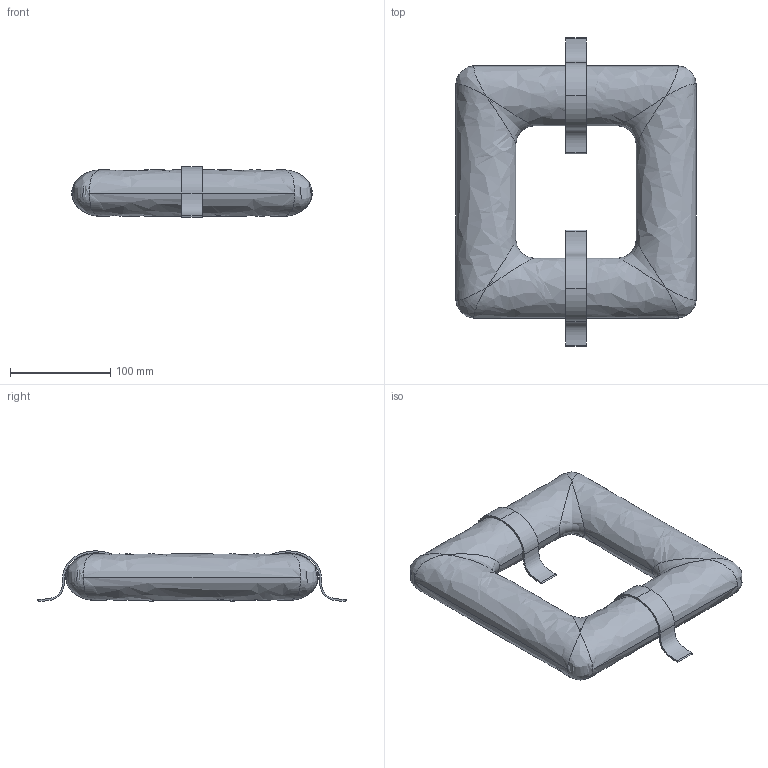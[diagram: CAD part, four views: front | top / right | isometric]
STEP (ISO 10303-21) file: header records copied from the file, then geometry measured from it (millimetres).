
FILE_DESCRIPTION (( 'STEP AP203' ), '1' );
FILE_NAME ('Floater.STEP', '2021-06-04T13:45:45', ( '' ), ( '' ), 'SwSTEP 2.0', 'SolidWorks 2016', '' );
FILE_SCHEMA (( 'CONFIG_CONTROL_DESIGN' ));
Length unit declared in the file: centimetre
Products named in the file (1): Floater
Bounding box: 240 x 307.99 x 50.31 mm (x, y, z)
Volume: 1506913.7 mm3; surface area: 138843.4 mm2
Topology: 3 solids, 3 shells, 42 faces, 120 edges, 66 vertices
Faces by surface type: bspline 34, cylinder 4, plane 4
Entity records: 5541 total; most frequent: CARTESIAN_POINT 4735, ORIENTED_EDGE 208, EDGE_CURVE 104, B_SPLINE_CURVE_WITH_KNOTS 74, VERTEX_POINT 66, DIRECTION 54, ADVANCED_FACE 42, FACE_OUTER_BOUND 42
